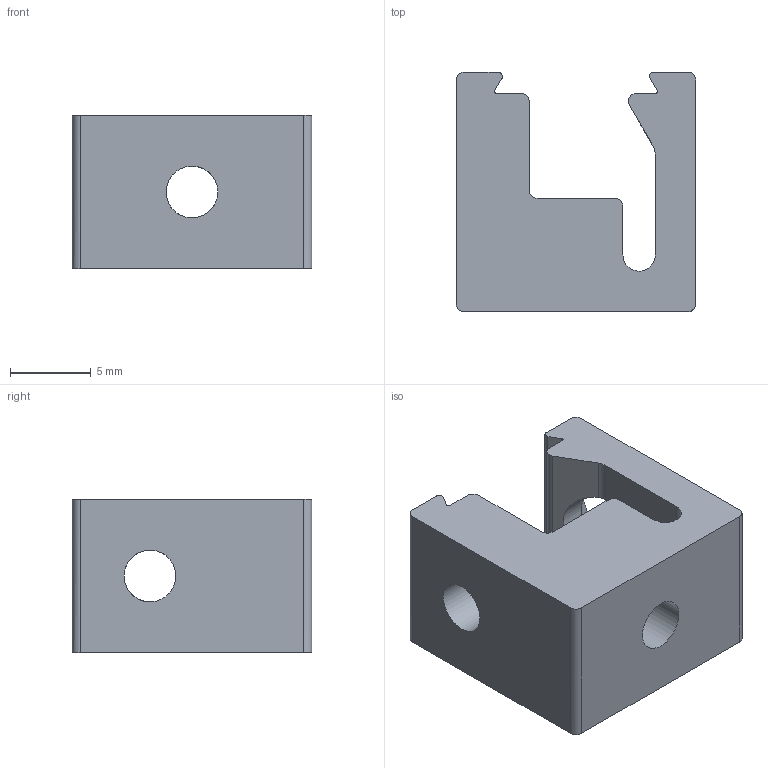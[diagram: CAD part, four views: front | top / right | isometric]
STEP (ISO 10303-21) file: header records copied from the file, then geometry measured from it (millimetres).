
FILE_DESCRIPTION((''),'2;1');
FILE_NAME('E:\temp\bt8_0.stp','2007-04-10T10:36:23',('User'),('SDRC'), 'I-DEAS Master Series','UNIX','Yes');
FILE_SCHEMA(('CONFIG_CONTROL_DESIGN', 'GEOMETRIC_VALIDATION_PROPERTIES_MIM','SHAPE_APPEARANCE_LAYER_MIM'));
Length unit declared in the file: millimetre
Bounding box: 14.8 x 14.8 x 9.5 mm (x, y, z)
Volume: 1252.4 mm3; surface area: 1183.2 mm2
Topology: 1 solids, 1 shells, 36 faces, 107 edges, 71 vertices
Faces by surface type: bspline 36
Entity records: 1290 total; most frequent: CARTESIAN_POINT 575, ORIENTED_EDGE 214, EDGE_CURVE 107, VERTEX_POINT 71, B_SPLINE_CURVE_WITH_KNOTS 53, EDGE_LOOP 40, FACE_OUTER_BOUND 36, ADVANCED_FACE 36
